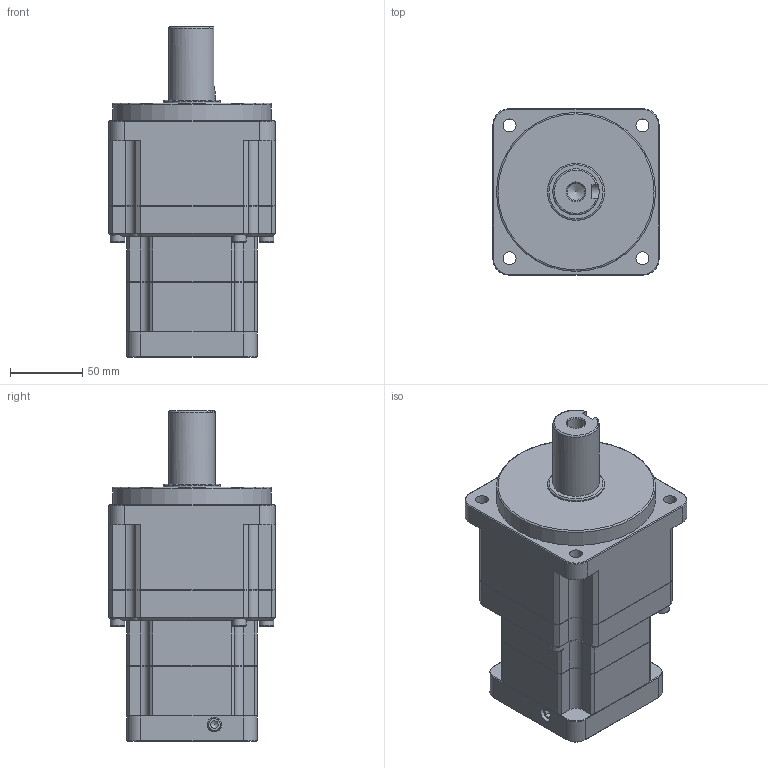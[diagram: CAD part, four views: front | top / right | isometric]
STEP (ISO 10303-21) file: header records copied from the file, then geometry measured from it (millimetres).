
FILE_DESCRIPTION((''),'2;1');
FILE_NAME('\\Autocad_1\업무관리(연구2부)\연구2부 1팀(유성팀)\01. 공통\12. 광고\02. 홈페이지 자료\06. SPID 도면\SPI115DS\SPI115DS015~050KA.stp','2009-12-23T08:50:06',('choejs'),(''),'Autodesk Inventor 2010','Autodesk Inventor 2010','');
FILE_SCHEMA(('AUTOMOTIVE_DESIGN { 1 0 10303 214 1 1 1 1 }'));
Length unit declared in the file: millimetre
Products named in the file (9): SPI115DS015~050KA; CARRIER CASE; DOWN ADAPTER; SPI090 뒤; SPI090 IN; SPI115 OUT; 단조 소켓 머리 캡 나사 - 미터 M5x0.8 x 20; 단조 소켓 머리 캡 나사 - 미터 M6x1 x 30; 단조 6각 소켓 멈춤 나사 - 납작점 - 미터 M10x1.5 x 10
Assembly tree (14 placements, depth 2):
  SPI115DS015~050KA
    CARRIER CASE
    DOWN ADAPTER
    SPI090 뒤
    SPI090 IN
    SPI115 OUT
    단조 소켓 머리 캡 나사 - 미터 M5x0.8 x 20  x4
    단조 소켓 머리 캡 나사 - 미터 M6x1 x 30  x4
    단조 6각 소켓 멈춤 나사 - 납작점 - 미터 M10x1.5 x 10
Bounding box: 115 x 115 x 228.7 mm (x, y, z)
Volume: 1692016.3 mm3; surface area: 183792.8 mm2
Topology: 14 solids, 14 shells, 451 faces, 1060 edges, 654 vertices
Faces by surface type: plane 231, cylinder 99, cone 82, bspline 28, torus 11
Full cylindrical faces by diameter (mm): 5 x4, 5.5 x4, 6 x4, 6.6 x4, 8.5 x4, 9.5 x4, 10 x5, 11 x4, 19 x1, 22 x1, 32 x1, 39.5 x1, 64 x1, 80 x1, 110 x1
Entity records: 10651 total; most frequent: CARTESIAN_POINT 2394, DIRECTION 1695, ORIENTED_EDGE 1564, EDGE_CURVE 782, AXIS2_PLACEMENT_3D 642, VERTEX_POINT 509, EDGE_LOOP 463, VECTOR 411
